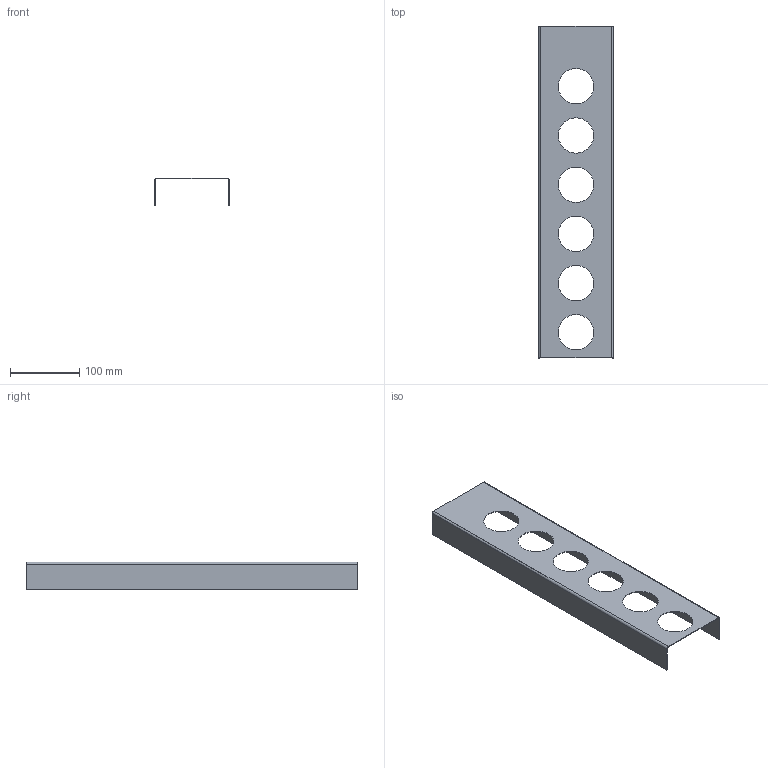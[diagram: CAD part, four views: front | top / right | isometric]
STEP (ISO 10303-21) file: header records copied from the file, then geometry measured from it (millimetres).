
FILE_DESCRIPTION (( 'STEP AP214' ), '1' );
FILE_NAME ('Gewuerzeinsatz_68308-01.STEP', '2010-10-25T13:39:10', ( 'grass' ), ( '' ), 'SwSTEP 2.0', 'SolidWorks 2010', '' );
FILE_SCHEMA (( 'AUTOMOTIVE_DESIGN' ));
Length unit declared in the file: millimetre
Products named in the file (1): Gewuerzeinsatz_68308-01
Bounding box: 108 x 479 x 40 mm (x, y, z)
Volume: 75809.1 mm3; surface area: 153905.3 mm2
Topology: 1 solids, 1 shells, 26 faces, 72 edges, 48 vertices
Faces by surface type: cylinder 16, plane 10
Entity records: 906 total; most frequent: DIRECTION 158, CARTESIAN_POINT 147, ORIENTED_EDGE 144, EDGE_CURVE 72, AXIS2_PLACEMENT_3D 59, VERTEX_POINT 48, LINE 40, VECTOR 40
